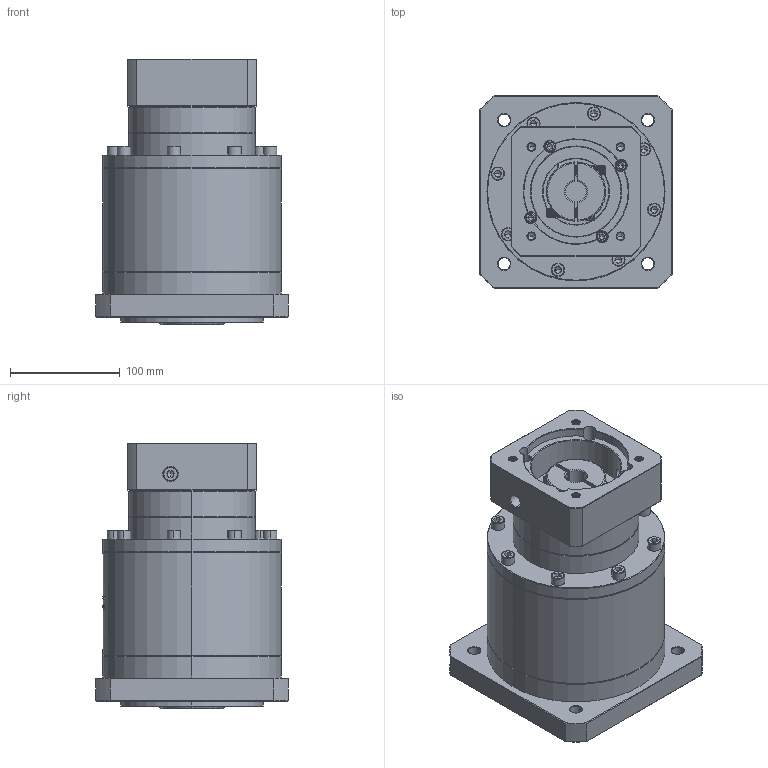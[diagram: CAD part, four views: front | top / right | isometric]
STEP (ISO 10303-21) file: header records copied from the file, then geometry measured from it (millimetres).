
FILE_DESCRIPTION (( 'STEP AP214' ), '1' );
FILE_NAME ('ZF160-K35-L3-19-95-115-M8.step', '2023-03-22T03:59:51', ( '' ), ( '' ), 'SwSTEP 2.0', 'SolidWorks 2016', '' );
FILE_SCHEMA (( 'AUTOMOTIVE_DESIGN' ));
Length unit declared in the file: millimetre
Products named in the file (1): ZF160-K35-L3-19-95-115-M8
Bounding box: 175 x 175 x 241.7 mm (x, y, z)
Volume: 4053424.6 mm3; surface area: 275267.7 mm2
Topology: 6 solids, 6 shells, 1821 faces, 4621 edges, 2921 vertices
Faces by surface type: plane 739, cylinder 454, cone 367, bspline 225, torus 36
Entity records: 93600 total; most frequent: CARTESIAN_POINT 31821, ORIENTED_EDGE 9138, DIRECTION 8057, EDGE_CURVE 4569, VERTEX_POINT 2921, AXIS2_PLACEMENT_3D 2802, LINE 2453, VECTOR 2453
